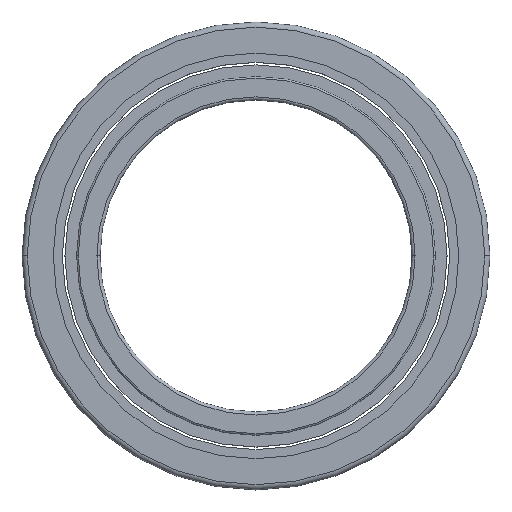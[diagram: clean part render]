
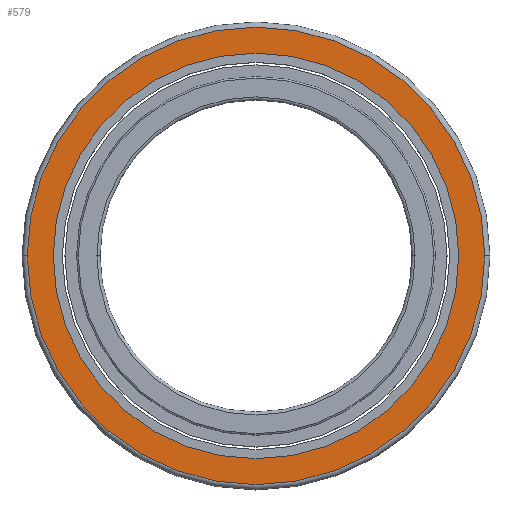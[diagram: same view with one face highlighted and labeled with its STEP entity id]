
A CAD part, top view. The second image highlights one B-rep face of the part: STEP entity #579.
In plain terms, the highlighted planar face has unit normal (0, 0, 1).
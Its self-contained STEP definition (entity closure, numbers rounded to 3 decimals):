
#52=CARTESIAN_POINT('',(0.,0.,6.5));
#53=DIRECTION('',(0.,0.,1.));
#54=DIRECTION('',(-1.,0.,0.));
#55=AXIS2_PLACEMENT_3D('',#52,#53,#54);
#61=CARTESIAN_POINT('',(0.,0.,6.5));
#62=DIRECTION('',(0.,0.,-1.));
#63=DIRECTION('',(-1.,0.,0.));
#64=AXIS2_PLACEMENT_3D('',#61,#62,#63);
#70=CARTESIAN_POINT('',(0.,0.,6.5));
#71=DIRECTION('',(0.,0.,1.));
#72=DIRECTION('',(-1.,0.,0.));
#73=AXIS2_PLACEMENT_3D('',#70,#71,#72);
#75=CARTESIAN_POINT('',(0.,0.,6.5));
#76=DIRECTION('',(0.,0.,-1.));
#77=DIRECTION('',(-1.,0.,0.));
#78=AXIS2_PLACEMENT_3D('',#75,#76,#77);
#376=CARTESIAN_POINT('',(-44.,0.,6.5));
#377=VERTEX_POINT('',#376);
#378=CARTESIAN_POINT('',(-39.,0.,6.5));
#380=VERTEX_POINT('',#378);
#418=CARTESIAN_POINT('',(44.,0.,6.5));
#419=VERTEX_POINT('',#418);
#420=CARTESIAN_POINT('',(39.,0.,6.5));
#422=VERTEX_POINT('',#420);
#564=CARTESIAN_POINT('',(0.,0.,6.5));
#565=DIRECTION('',(0.,0.,1.));
#566=DIRECTION('',(-1.,0.,0.));
#567=AXIS2_PLACEMENT_3D('',#564,#565,#566);
#568=PLANE('',#567);
#570=ORIENTED_EDGE('',*,*,#569,.F.);
#572=ORIENTED_EDGE('',*,*,#571,.T.);
#573=EDGE_LOOP('',(#570,#572));
#574=FACE_OUTER_BOUND('',#573,.F.);
#575=ORIENTED_EDGE('',*,*,#550,.F.);
#576=ORIENTED_EDGE('',*,*,#532,.T.);
#577=EDGE_LOOP('',(#575,#576));
#578=FACE_BOUND('',#577,.F.);
#56=CIRCLE('',#55,39.);
#65=CIRCLE('',#64,39.);
#74=CIRCLE('',#73,44.);
#79=CIRCLE('',#78,44.);
#532=EDGE_CURVE('',#380,#422,#56,.T.);
#550=EDGE_CURVE('',#380,#422,#65,.T.);
#569=EDGE_CURVE('',#377,#419,#74,.T.);
#571=EDGE_CURVE('',#377,#419,#79,.T.);
#579=ADVANCED_FACE('',(#574,#578),#568,.T.);
